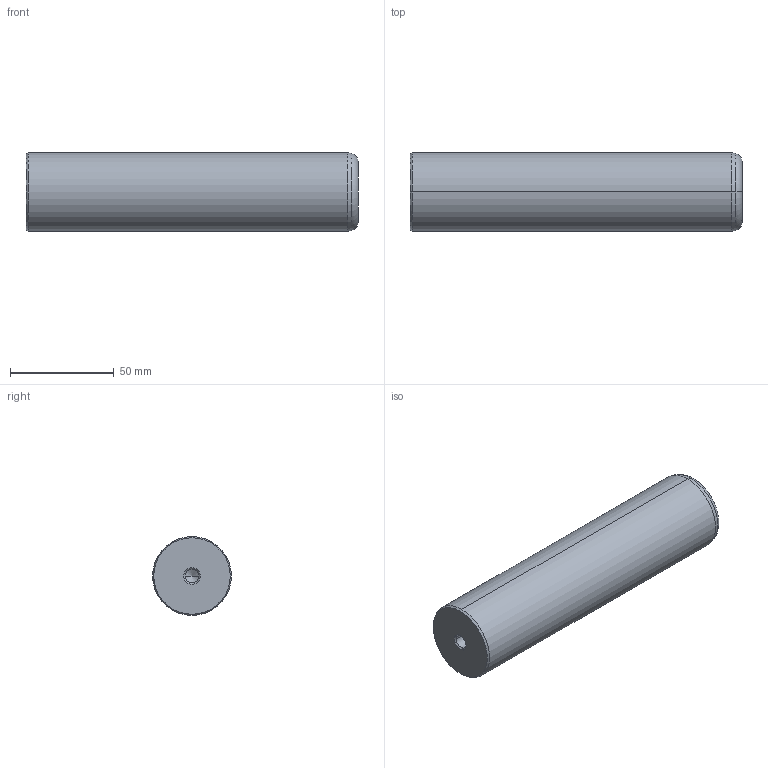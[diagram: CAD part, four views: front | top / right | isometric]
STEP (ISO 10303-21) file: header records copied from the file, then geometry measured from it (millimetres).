
FILE_DESCRIPTION(('CATIA V5 STEP Exchange'),'2;1');
FILE_NAME('C:\Users\Utente\Desktop\IO LAVORO\3D X SITO CF\X SITO\720\720-38x160.stp','2021-01-01T12:08:07+00:00',('none'),('none'),'CATIA Version 5 Release 20 GA (IN-10)','CATIA V5 STEP AP203','none');
FILE_SCHEMA(('CONFIG_CONTROL_DESIGN'));
Length unit declared in the file: millimetre
Products named in the file (1): 720-38x160
Bounding box: 160 x 38 x 38 mm (x, y, z)
Volume: 179118.8 mm3; surface area: 22055.6 mm2
Topology: 1 solids, 1 shells, 22 faces, 56 edges, 34 vertices
Faces by surface type: cone 12, cylinder 6, plane 2, torus 2
Entity records: 755 total; most frequent: CARTESIAN_POINT 216, ORIENTED_EDGE 104, DIRECTION 89, EDGE_CURVE 52, AXIS2_PLACEMENT_3D 50, VERTEX_POINT 34, CIRCLE 27, EDGE_LOOP 24
